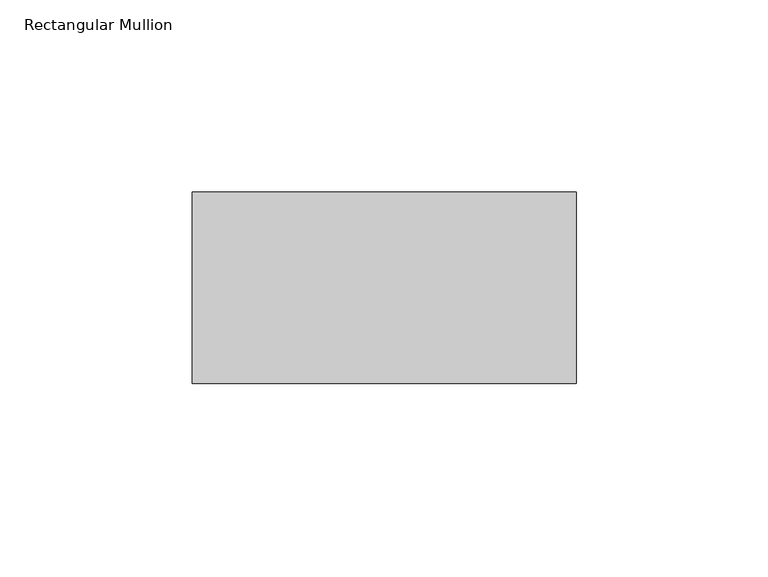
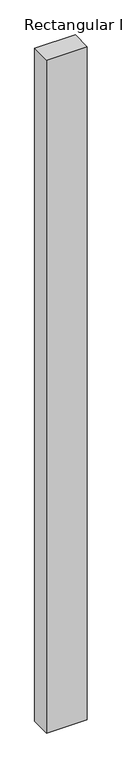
"""IFC4 building model written with IfcOpenShell, lengths in millimetres: member geometry, Rectangular Mullion : Mullion_Curtain Wall_Generic Showcase_50x100mm."""

from ifc_helpers import new_model, si_unit, frame, origin, place, context, project, spatial, polyline, outline, extrude, source, transform, mapped, element, save


def rectangular_mullion_a2a1290c(model_context):
    return source(origin(), model_context, "Body", "SweptSolid", [
        extrude(outline(polyline([(0.0, 50.0), (0.0, 0.0), (-100.0, 0.0), (-100.0, 50.0), (0.0, 50.0)])), frame((0.0, 0.0, -1751.9795478), z_axis=(0.0, 0.0, 1.0), x_axis=(1.0, 0.0, 0.0)), (0.0, 0.0, 1.0), 1751.9795478),
    ])


if __name__ == "__main__":
    model = new_model("IFC4")
    model_context = context("Model", 3, world=origin())
    ifc_project = project(units=[si_unit("LENGTHUNIT", "METRE", prefix="MILLI")], contexts=[model_context])
    site = spatial("IfcSite", under=ifc_project)
    building = spatial("IfcBuilding", under=site)
    placement = place(None, origin())
    rectangular_mullion_shape = rectangular_mullion_a2a1290c(model_context)
    element("IfcMember", 1, ObjectType="Rectangular Mullion : Mullion_Curtain Wall_Generic Showcase_50x100mm", at=placement, inside=building, context=model_context, shape_type="MappedRepresentation", body=[
        mapped(rectangular_mullion_shape, transform((0.0, 0.0, 0.0), x_axis=(1.0, 0.0, 0.0), y_axis=(0.0, 1.0, 0.0), z_axis=(0.0, 0.0, 1.0))),
    ])
    save(model, "model.ifc")
